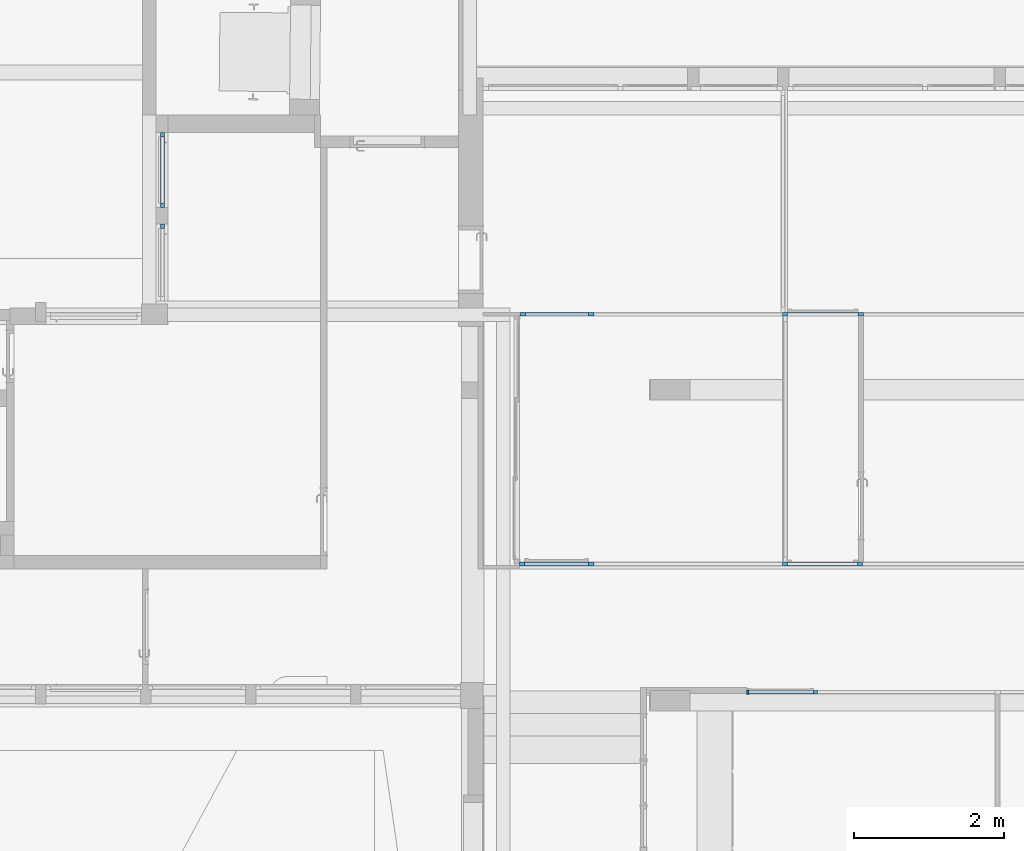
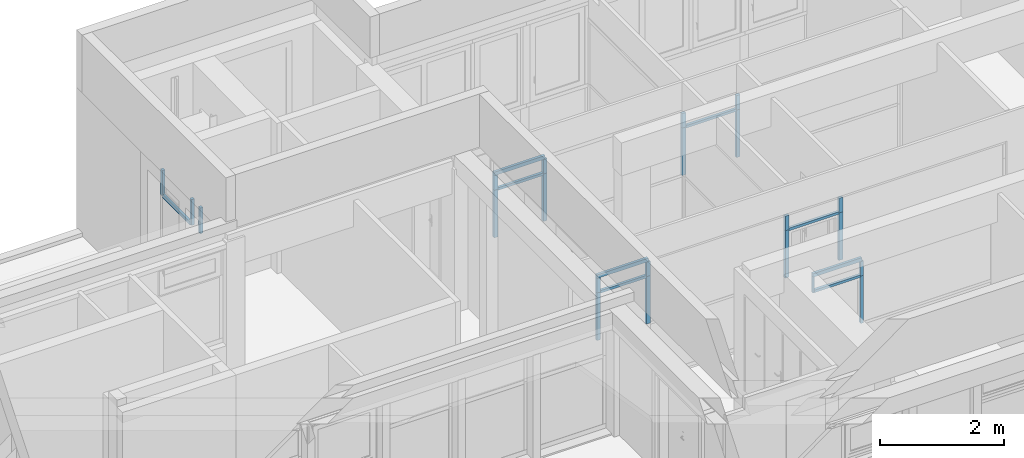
# One storey, part 15 of 49: 31 members, 5 elements without a shape of their own.
"""IFC4 building model written with IfcOpenShell, lengths in metres."""

import ifcopenshell
import ifcopenshell.guid

model = None  # the IFC model being written
_history = None  # IfcOwnerHistory: only IFC2X3 demands one
_inside = {}  # id of a spatial element -> (the spatial element, [elements in it])
_under = {}  # id of a project, library or spatial element -> (it, [spatial elements below it])
_declared = {}  # id of a project -> (the project, [libraries it declares])
_typed = {}  # id of a type object -> (the type object, [elements of that type])
_made_of = {}  # id of a material, layer set ... -> (it, [elements and type objects made of it])


def new_model(schema):
    """Start an empty IFC model of exactly this schema.

    Asked for "IFC4X3", IfcOpenShell would pick the latest addendum, in which some entities
    have other attributes; the version numbers below select the first issue.
    IFC2X3 requires an IfcOwnerHistory on every rooted entity: one is made here for all.
    """
    global model, _history
    if schema == "IFC4X3":
        model = ifcopenshell.file(schema_version=(4, 3, 0, 0))
    else:
        model = ifcopenshell.file(schema=schema)
    _inside.clear()
    _under.clear()
    _declared.clear()
    _typed.clear()
    _made_of.clear()
    _history = None
    if model.schema == "IFC2X3":
        org = make("IfcOrganization", Name="unknown")
        user = make(
            "IfcPersonAndOrganization",
            ThePerson=make("IfcPerson", FamilyName="unknown"),
            TheOrganization=org,
        )
        app = make(
            "IfcApplication",
            ApplicationDeveloper=org,
            Version="unknown",
            ApplicationFullName="unknown",
            ApplicationIdentifier="unknown",
        )
        _history = make(
            "IfcOwnerHistory",
            OwningUser=user,
            OwningApplication=app,
            ChangeAction="ADDED",
            CreationDate=0,
        )
    return model


def make(cls, **values):
    """One entity of the class cls with the attributes given. An attribute that is None is left unset."""
    return model.create_entity(
        cls, **{name: value for name, value in values.items() if value is not None}
    )


def entity(cls, *values):
    """Any entity or typed value of the class cls, its attributes in the order of the schema. None: left unset."""
    e = model.create_entity(cls)
    for i, value in enumerate(values):
        if value is not None:
            e[i] = value
    return e


def rooted(cls, **values):
    """An entity with a GlobalId (a new one), such as an element, a storey or a relation."""
    return make(cls, GlobalId=ifcopenshell.guid.new(), OwnerHistory=_history, **values)


def si_unit(unit_type, name, prefix=None):
    """IfcSIUnit, for example si_unit("LENGTHUNIT", "METRE", prefix="MILLI")."""
    return make("IfcSIUnit", UnitType=unit_type, Prefix=prefix, Name=name)


def converted_unit(unit_type, name, factor, base, dimensions=None, offset=None):
    """IfcConversionBasedUnit, such as the inch: factor (a typed value) times the base unit."""
    return make(
        "IfcConversionBasedUnit"
        if offset is None
        else "IfcConversionBasedUnitWithOffset",
        ConversionOffset=offset,
        Dimensions=None
        if dimensions is None
        else entity("IfcDimensionalExponents", *dimensions),
        UnitType=unit_type,
        Name=name,
        ConversionFactor=make(
            "IfcMeasureWithUnit", ValueComponent=factor, UnitComponent=base
        ),
    )


def derived_unit(unit_type, elements):
    """IfcDerivedUnit: a product of units, each with its exponent."""
    return make(
        "IfcDerivedUnit",
        Elements=[
            make("IfcDerivedUnitElement", Unit=unit, Exponent=power)
            for unit, power in elements
        ],
        UnitType=unit_type,
    )


def assignment(units):
    """IfcUnitAssignment: the units of a project."""
    return None if units is None else make("IfcUnitAssignment", Units=units)


def point(xyz):
    """IfcCartesianPoint."""
    return None if xyz is None else make("IfcCartesianPoint", Coordinates=xyz)


def direction(xyz):
    """IfcDirection."""
    return None if xyz is None else make("IfcDirection", DirectionRatios=xyz)


def frame(location, z_axis=None, x_axis=None):
    """IfcAxis2Placement3D, a coordinate frame: its origin and axes. An axis left out is left unset."""
    return make(
        "IfcAxis2Placement3D",
        Location=point(location),
        Axis=direction(z_axis),
        RefDirection=direction(x_axis),
    )


def origin():
    """The frame at (0, 0, 0) with its axes left unset."""
    return frame((0.0, 0.0, 0.0))


def place(relative_to, where):
    """IfcLocalPlacement: puts the frame where relative to a parent placement (None: the world)."""
    return make(
        "IfcLocalPlacement", PlacementRelTo=relative_to, RelativePlacement=where
    )


def context(
    kind, dimensions, precision=None, world=None, true_north=None, identifier=None
):
    """IfcGeometricRepresentationContext, for example the 3D "Model" context."""
    return make(
        "IfcGeometricRepresentationContext",
        ContextIdentifier=identifier,
        ContextType=kind,
        CoordinateSpaceDimension=dimensions,
        Precision=precision,
        WorldCoordinateSystem=world,
        TrueNorth=true_north,
    )


def subcontext(parent, identifier, kind, view, scale=None):
    """IfcGeometricRepresentationSubContext, for example "Body" below "Model"."""
    return make(
        "IfcGeometricRepresentationSubContext",
        ContextIdentifier=identifier,
        ContextType=kind,
        ParentContext=parent,
        TargetScale=scale,
        TargetView=view,
    )


def project(units=None, contexts=None):
    """IfcProject with its units and contexts."""
    return rooted(
        "IfcProject",
        Name="project",
        RepresentationContexts=contexts,
        UnitsInContext=assignment(units),
    )


def spatial(cls, under=None, at=None, **own):
    """A site, building, storey or space (cls), placed at a placement, below another one or the project."""
    s = rooted(cls, ObjectPlacement=at, **own)
    if under is not None:
        _under.setdefault(under.id(), (under, []))[1].append(s)
    return s


def point_list(points):
    """IfcCartesianPointList2D or 3D."""
    cls = (
        "IfcCartesianPointList2D" if len(points[0]) == 2 else "IfcCartesianPointList3D"
    )
    return make(cls, CoordList=points)


def indexed_curve(points, segments=None, self_intersect=None):
    """IfcIndexedPolyCurve: lines and arcs through numbered points (the first is 1)."""
    return make(
        "IfcIndexedPolyCurve",
        Points=point_list(points),
        Segments=segments,
        SelfIntersect=self_intersect,
    )


def outline(outer, holes=None, kind="AREA"):
    """IfcArbitraryClosedProfileDef: a profile drawn as a closed curve; with holes, ...WithVoids."""
    if holes is None:
        return make("IfcArbitraryClosedProfileDef", ProfileType=kind, OuterCurve=outer)
    return make(
        "IfcArbitraryProfileDefWithVoids",
        ProfileType=kind,
        OuterCurve=outer,
        InnerCurves=holes,
    )


def extrude(swept, where, along, depth):
    """IfcExtrudedAreaSolid: the profile swept, set in the frame where, extruded along a direction by depth."""
    return make(
        "IfcExtrudedAreaSolid",
        SweptArea=swept,
        Position=where,
        ExtrudedDirection=direction(along),
        Depth=depth,
    )


def shape(context_of_items, identifier, shape_type, items):
    """IfcShapeRepresentation: the items that make up one representation, for example the "Body"."""
    return make(
        "IfcShapeRepresentation",
        ContextOfItems=context_of_items,
        RepresentationIdentifier=identifier,
        RepresentationType=shape_type,
        Items=items,
    )


def source(mapping_origin, context_of_items, identifier, shape_type, items):
    """IfcRepresentationMap: a shape defined once, which mapped items show again and again."""
    return make(
        "IfcRepresentationMap",
        MappingOrigin=mapping_origin,
        MappedRepresentation=shape(context_of_items, identifier, shape_type, items),
    )


def transform(
    local_origin,
    x_axis=None,
    y_axis=None,
    z_axis=None,
    scale=None,
    scale2=None,
    scale3=None,
    uniform=True,
):
    """IfcCartesianTransformationOperator3D, or its non-uniform kind. x_axis, y_axis, z_axis: its Axis1, 2, 3."""
    if uniform:
        return make(
            "IfcCartesianTransformationOperator3D",
            Axis1=direction(x_axis),
            Axis2=direction(y_axis),
            LocalOrigin=point(local_origin),
            Scale=scale,
            Axis3=direction(z_axis),
        )
    return make(
        "IfcCartesianTransformationOperator3DnonUniform",
        Axis1=direction(x_axis),
        Axis2=direction(y_axis),
        LocalOrigin=point(local_origin),
        Scale=scale,
        Axis3=direction(z_axis),
        Scale2=scale2,
        Scale3=scale3,
    )


def mapped(mapping_source, mapping_target):
    """IfcMappedItem: shows the shape of a source again, moved by a transform."""
    return make(
        "IfcMappedItem", MappingSource=mapping_source, MappingTarget=mapping_target
    )


def material(Name=None, Category=None):
    """IfcMaterial."""
    return make("IfcMaterial", Name=Name, Category=Category)


def made_of(thing, what):
    """Note that an element or type object is made of a material, layer set ...; save() writes the relation."""
    if what is not None:
        _made_of.setdefault(what.id(), (what, []))[1].append(thing)
    return thing


def type_object(cls, material=None, **own):
    """A type object (cls), such as IfcWallType, which elements share."""
    return made_of(rooted(cls, **own), material)


def type_shapes(of_type, sources):
    """Give a type object the sources (RepresentationMaps) that its elements show as mapped items."""
    of_type.RepresentationMaps = sources


def element(
    cls,
    number,
    at=None,
    inside=None,
    cuts=None,
    type_object=None,
    material=None,
    context=None,
    identifier="Body",
    shape_type=None,
    held_by="IfcProductDefinitionShape",
    body=None,
    shapes=None,
    **own,
):
    """One element of the class cls, such as IfcWall. Its Tag is "e" and its number.

    at: its placement. inside: the storey or other place that contains it. cuts: it is an
    opening in that element (IfcRelVoidsElement). A single representation is given by context,
    identifier, shape_type and body (its items); several are given by shapes. held_by: the class
    of the entity that holds the representations. save() writes the other relations.
    """
    e = rooted(cls, Tag="e%d" % number, ObjectPlacement=at, **own)
    if body is not None:
        shapes = [shape(context, identifier, shape_type, body)]
    if shapes is not None:
        e.Representation = make(held_by, Representations=shapes)
    if inside is not None:
        _inside.setdefault(inside.id(), (inside, []))[1].append(e)
    if cuts is not None:
        rooted(
            "IfcRelVoidsElement", RelatingBuildingElement=cuts, RelatedOpeningElement=e
        )
    if type_object is not None:
        _typed.setdefault(type_object.id(), (type_object, []))[1].append(e)
    return made_of(e, material)


def aggregate(whole, parts):
    """IfcRelAggregates: a whole, such as a stair, and the parts it consists of."""
    return rooted("IfcRelAggregates", RelatingObject=whole, RelatedObjects=parts)


def save(model, path):
    """Write the relations noted so far, then the file.

    IfcRelAggregates (storeys below a building ...), IfcRelContainedInSpatialStructure (elements
    in a storey), IfcRelDefinesByType, IfcRelAssociatesMaterial and IfcRelDeclares: one each for
    every whole, place, type object, material and project.
    """
    for whole, parts in _under.values():
        aggregate(whole, parts)
    for where, things in _inside.values():
        rooted(
            "IfcRelContainedInSpatialStructure",
            RelatedElements=things,
            RelatingStructure=where,
        )
    for kind, things in _typed.values():
        rooted("IfcRelDefinesByType", RelatedObjects=things, RelatingType=kind)
    for what, things in _made_of.values():
        rooted("IfcRelAssociatesMaterial", RelatedObjects=things, RelatingMaterial=what)
    for by, libraries in _declared.values():
        rooted("IfcRelDeclares", RelatingContext=by, RelatedDefinitions=libraries)
    model.write(path)


model = new_model("IFC4")

# Units and contexts
model_context = context("Model", 3, precision=1e-05, world=origin(), true_north=direction((6.12303176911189e-17, 1.0)))
body_context = subcontext(model_context, "Body", "Model", "MODEL_VIEW")
ifc_project = project(units=[si_unit("LENGTHUNIT", "METRE"), si_unit("AREAUNIT", "SQUARE_METRE"), si_unit("VOLUMEUNIT", "CUBIC_METRE"), converted_unit("PLANEANGLEUNIT", "DEGREE", entity("IfcRatioMeasure", 0.0174532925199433), si_unit("PLANEANGLEUNIT", "RADIAN"), dimensions=[0, 0, 0, 0, 0, 0, 0]), si_unit("MASSUNIT", "GRAM", prefix="KILO"), derived_unit("MASSDENSITYUNIT", [(si_unit("MASSUNIT", "GRAM", prefix="KILO"), 1), (si_unit("LENGTHUNIT", "METRE"), -3)]), derived_unit("MOMENTOFINERTIAUNIT", [(si_unit("LENGTHUNIT", "METRE"), 4)]), si_unit("TIMEUNIT", "SECOND"), si_unit("FREQUENCYUNIT", "HERTZ"), si_unit("THERMODYNAMICTEMPERATUREUNIT", "DEGREE_CELSIUS"), derived_unit("THERMALTRANSMITTANCEUNIT", [(si_unit("MASSUNIT", "GRAM", prefix="KILO"), 1), (si_unit("THERMODYNAMICTEMPERATUREUNIT", "KELVIN"), -1), (si_unit("TIMEUNIT", "SECOND"), -3)]), derived_unit("VOLUMETRICFLOWRATEUNIT", [(si_unit("LENGTHUNIT", "METRE"), 3), (si_unit("TIMEUNIT", "SECOND"), -1)]), si_unit("ELECTRICCURRENTUNIT", "AMPERE"), si_unit("ELECTRICVOLTAGEUNIT", "VOLT"), si_unit("POWERUNIT", "WATT"), si_unit("FORCEUNIT", "NEWTON", prefix="KILO"), si_unit("ILLUMINANCEUNIT", "LUX"), si_unit("LUMINOUSFLUXUNIT", "LUMEN"), si_unit("LUMINOUSINTENSITYUNIT", "CANDELA"), derived_unit("USERDEFINED", [(si_unit("MASSUNIT", "GRAM", prefix="KILO"), -1), (si_unit("LENGTHUNIT", "METRE"), -2), (si_unit("TIMEUNIT", "SECOND"), 3), (si_unit("LUMINOUSFLUXUNIT", "LUMEN"), 1)]), derived_unit("LINEARVELOCITYUNIT", [(si_unit("LENGTHUNIT", "METRE"), 1), (si_unit("TIMEUNIT", "SECOND"), -1)]), si_unit("PRESSUREUNIT", "PASCAL"), derived_unit("USERDEFINED", [(si_unit("LENGTHUNIT", "METRE"), -2), (si_unit("MASSUNIT", "GRAM", prefix="KILO"), 1), (si_unit("TIMEUNIT", "SECOND"), -2)]), derived_unit("LINEARFORCEUNIT", [(si_unit("MASSUNIT", "GRAM", prefix="KILO"), 1), (si_unit("LENGTHUNIT", "METRE"), 1), (si_unit("TIMEUNIT", "SECOND"), -2), (si_unit("LENGTHUNIT", "METRE"), -1)]), derived_unit("PLANARFORCEUNIT", [(si_unit("MASSUNIT", "GRAM", prefix="KILO"), 1), (si_unit("LENGTHUNIT", "METRE"), 1), (si_unit("TIMEUNIT", "SECOND"), -2), (si_unit("LENGTHUNIT", "METRE"), -2)])], contexts=[model_context])

# Site, building, storey
site_placement = place(None, origin())
site = spatial("IfcSite", under=ifc_project, at=site_placement, Name="Default", CompositionType="ELEMENT")
building_placement = place(site_placement, origin())
building = spatial("IfcBuilding", under=site, at=building_placement, Name="HOTEL CONSULAIRE BOULOGNE SUR MER", CompositionType="ELEMENT")
storey_placement = place(building_placement, frame((0.0, 0.0, 6.81974152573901)))
storey = spatial("IfcBuildingStorey", under=building, at=storey_placement, Name="Niveau 2", CompositionType="ELEMENT", Elevation=6.81974152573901)

# Curtain wall, member
curtain_wall_type = type_object("IfcCurtainWallType", Name="Mur-rideau:Simple panneau", PredefinedType="NOTDEFINED")
curtain_wall_1_placement = place(storey_placement, frame((0.0, 0.0, -6.81974152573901)))
curtain_wall_1 = element("IfcCurtainWall", 1, at=curtain_wall_1_placement, inside=storey, type_object=curtain_wall_type, Name="Mur-rideau:Simple panneau", ObjectType="Mur-rideau:Simple panneau", PredefinedType="NOTDEFINED")
ifc_material = material(Name="PVC - Blanc", Category="Plastique")
member_type_1 = type_object("IfcMemberType", Name="Meneau rectangulaire:50 x 25mm", PredefinedType="MULLION", material=ifc_material)
shared_shape_1 = source(origin(), body_context, "Body", "SweptSolid", [
    extrude(outline(indexed_curve([(-0.025, -0.025), (0.025, -0.025), (0.025, 0.025), (-0.025, 0.025), (-0.025, -0.025)], self_intersect=False)), frame((0.0, -0.025, -0.86254976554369), z_axis=(0.0, 0.0, 1.0), x_axis=(0.0, -1.0, 0.0)), (0.0, 0.0, 1.0), 0.862549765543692),
])
type_shapes(member_type_1, [shared_shape_1])
member_1_placement = place(storey_placement, frame((15.2148070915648, -19.643155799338, 2.046), z_axis=(-1.0, 0.0, 0.0), x_axis=(0.0, 0.0, 1.0)))
member_1 = element("IfcMember", 2, at=member_1_placement, type_object=member_type_1, material=ifc_material, Name="Meneau rectangulaire:50 x 25mm", ObjectType="Meneau rectangulaire:50 x 25mm", PredefinedType="MULLION", context=body_context, shape_type="MappedRepresentation", body=[
    mapped(shared_shape_1, transform((0.0, 0.0, 0.0), scale=1.0)),
])

# Curtain wall, members
curtain_wall_2_placement = place(storey_placement, frame((0.0, 0.0, -6.81974152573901)))
curtain_wall_2 = element("IfcCurtainWall", 3, at=curtain_wall_2_placement, inside=storey, type_object=curtain_wall_type, Name="Mur-rideau:Simple panneau", ObjectType="Mur-rideau:Simple panneau", PredefinedType="NOTDEFINED")
member_type_2 = type_object("IfcMemberType", Name="Meneau rectangulaire:50 x 35", PredefinedType="MULLION", material=ifc_material)
shared_shape_2 = source(origin(), body_context, "Body", "SweptSolid", [
    extrude(outline(indexed_curve([(-0.025, -0.035), (0.025, -0.035), (0.025, 0.035), (-0.025, 0.035), (-0.025, -0.035)], self_intersect=False)), frame((0.0, -0.025, -0.935), z_axis=(0.0, 0.0, 1.0), x_axis=(0.0, -1.0, 0.0)), (0.0, 0.0, 1.0), 0.935),
])
type_shapes(member_type_2, [shared_shape_2])
member_2_placement = place(storey_placement, frame((13.113075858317, -14.6024237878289, 1.111), z_axis=(0.0, 0.0, -1.0), x_axis=(-1.0, 0.0, 0.0)))
member_2 = element("IfcMember", 4, at=member_2_placement, type_object=member_type_2, material=ifc_material, Name="Meneau rectangulaire:50 x 35", ObjectType="Meneau rectangulaire:50 x 35", PredefinedType="MULLION", context=body_context, shape_type="MappedRepresentation", body=[
    mapped(shared_shape_2, transform((0.0, 0.0, 0.0), scale=1.0)),
])
member_3_placement = place(storey_placement, frame((15.696075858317, -14.6024237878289, 1.111), z_axis=(0.0, 0.0, -1.0), x_axis=(-1.0, 0.0, 0.0)))
member_3 = element("IfcMember", 5, at=member_3_placement, type_object=member_type_2, material=ifc_material, Name="Meneau rectangulaire:50 x 35", ObjectType="Meneau rectangulaire:50 x 35", PredefinedType="MULLION", context=body_context, shape_type="MappedRepresentation", body=[
    mapped(shared_shape_2, transform((0.0, 0.0, 0.0), scale=1.0)),
])
member_4_placement = place(storey_placement, frame((16.708075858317, -14.6024237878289, 1.111), z_axis=(0.0, 0.0, -1.0), x_axis=(-1.0, 0.0, 0.0)))
member_4 = element("IfcMember", 6, at=member_4_placement, type_object=member_type_2, material=ifc_material, Name="Meneau rectangulaire:50 x 35", ObjectType="Meneau rectangulaire:50 x 35", PredefinedType="MULLION", context=body_context, shape_type="MappedRepresentation", body=[
    mapped(shared_shape_2, transform((0.0, 0.0, 0.0), scale=1.0)),
])

curtain_wall_3_placement = place(storey_placement, frame((0.0, 0.0, -6.81974152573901)))
curtain_wall_3 = element("IfcCurtainWall", 7, at=curtain_wall_3_placement, inside=storey, type_object=curtain_wall_type, Name="Mur-rideau:Simple panneau", ObjectType="Mur-rideau:Simple panneau", PredefinedType="NOTDEFINED")
member_5_placement = place(storey_placement, frame((13.113075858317, -17.9313078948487, 1.111), z_axis=(0.0, 0.0, -1.0), x_axis=(-1.0, 0.0, 0.0)))
member_5 = element("IfcMember", 8, at=member_5_placement, type_object=member_type_2, material=ifc_material, Name="Meneau rectangulaire:50 x 35", ObjectType="Meneau rectangulaire:50 x 35", PredefinedType="MULLION", context=body_context, shape_type="MappedRepresentation", body=[
    mapped(shared_shape_2, transform((0.0, 0.0, 0.0), scale=1.0)),
])
member_6_placement = place(storey_placement, frame((15.696075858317, -17.9313078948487, 1.111), z_axis=(0.0, 0.0, -1.0), x_axis=(-1.0, 0.0, 0.0)))
member_6 = element("IfcMember", 9, at=member_6_placement, type_object=member_type_2, material=ifc_material, Name="Meneau rectangulaire:50 x 35", ObjectType="Meneau rectangulaire:50 x 35", PredefinedType="MULLION", context=body_context, shape_type="MappedRepresentation", body=[
    mapped(shared_shape_2, transform((0.0, 0.0, 0.0), scale=1.0)),
])
member_7_placement = place(storey_placement, frame((16.696075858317, -17.9313078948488, 1.111), z_axis=(0.0, 0.0, -1.0), x_axis=(-1.0, 0.0, 0.0)))
member_7 = element("IfcMember", 10, at=member_7_placement, type_object=member_type_2, material=ifc_material, Name="Meneau rectangulaire:50 x 35", ObjectType="Meneau rectangulaire:50 x 35", PredefinedType="MULLION", context=body_context, shape_type="MappedRepresentation", body=[
    mapped(shared_shape_2, transform((0.0, 0.0, 0.0), scale=1.0)),
])

# Member
member_type_3 = type_object("IfcMemberType", Name="Meneau rectangulaire:50 x 35", PredefinedType="MULLION", material=ifc_material)
shared_shape_3 = source(origin(), body_context, "Body", "SweptSolid", [
    extrude(outline(indexed_curve([(-0.025, -0.035), (0.025, -0.035), (0.025, 0.035), (-0.025, 0.035), (-0.025, -0.035)], self_intersect=False)), frame((0.0, -0.025, -0.286), z_axis=(0.0, 0.0, 1.0), x_axis=(0.0, -1.0, 0.0)), (0.0, 0.0, 1.0), 0.286),
])
type_shapes(member_type_3, [shared_shape_3])
member_8_placement = place(storey_placement, frame((13.113075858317, -14.6024237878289, 2.046), z_axis=(0.0, 0.0, -1.0), x_axis=(-1.0, 0.0, 0.0)))
member_8 = element("IfcMember", 11, at=member_8_placement, type_object=member_type_3, material=ifc_material, Name="Meneau rectangulaire:50 x 35", ObjectType="Meneau rectangulaire:50 x 35", PredefinedType="MULLION", context=body_context, shape_type="MappedRepresentation", body=[
    mapped(shared_shape_3, transform((0.0, 0.0, 0.0), scale=1.0)),
])

member_9_placement = place(storey_placement, frame((15.696075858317, -14.6024237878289, 2.046), z_axis=(0.0, 0.0, -1.0), x_axis=(-1.0, 0.0, 0.0)))
member_9 = element("IfcMember", 12, at=member_9_placement, type_object=member_type_3, material=ifc_material, Name="Meneau rectangulaire:50 x 35", ObjectType="Meneau rectangulaire:50 x 35", PredefinedType="MULLION", context=body_context, shape_type="MappedRepresentation", body=[
    mapped(shared_shape_3, transform((0.0, 0.0, 0.0), scale=1.0)),
])

member_10_placement = place(storey_placement, frame((16.708075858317, -14.6024237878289, 2.046), z_axis=(0.0, 0.0, -1.0), x_axis=(-1.0, 0.0, 0.0)))
member_10 = element("IfcMember", 13, at=member_10_placement, type_object=member_type_3, material=ifc_material, Name="Meneau rectangulaire:50 x 35", ObjectType="Meneau rectangulaire:50 x 35", PredefinedType="MULLION", context=body_context, shape_type="MappedRepresentation", body=[
    mapped(shared_shape_3, transform((0.0, 0.0, 0.0), scale=1.0)),
])

member_11_placement = place(storey_placement, frame((13.113075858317, -17.9313078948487, 2.046), z_axis=(0.0, 0.0, -1.0), x_axis=(-1.0, 0.0, 0.0)))
member_11 = element("IfcMember", 14, at=member_11_placement, type_object=member_type_3, material=ifc_material, Name="Meneau rectangulaire:50 x 35", ObjectType="Meneau rectangulaire:50 x 35", PredefinedType="MULLION", context=body_context, shape_type="MappedRepresentation", body=[
    mapped(shared_shape_3, transform((0.0, 0.0, 0.0), scale=1.0)),
])

member_12_placement = place(storey_placement, frame((15.696075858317, -17.9313078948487, 2.046), z_axis=(0.0, 0.0, -1.0), x_axis=(-1.0, 0.0, 0.0)))
member_12 = element("IfcMember", 15, at=member_12_placement, type_object=member_type_3, material=ifc_material, Name="Meneau rectangulaire:50 x 35", ObjectType="Meneau rectangulaire:50 x 35", PredefinedType="MULLION", context=body_context, shape_type="MappedRepresentation", body=[
    mapped(shared_shape_3, transform((0.0, 0.0, 0.0), scale=1.0)),
])

member_13_placement = place(storey_placement, frame((16.696075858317, -17.9313078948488, 2.046), z_axis=(0.0, 0.0, -1.0), x_axis=(-1.0, 0.0, 0.0)))
member_13 = element("IfcMember", 16, at=member_13_placement, type_object=member_type_3, material=ifc_material, Name="Meneau rectangulaire:50 x 35", ObjectType="Meneau rectangulaire:50 x 35", PredefinedType="MULLION", context=body_context, shape_type="MappedRepresentation", body=[
    mapped(shared_shape_3, transform((0.0, 0.0, 0.0), scale=1.0)),
])

member_type_4 = type_object("IfcMemberType", Name="Meneau rectangulaire:50 x 25mm", PredefinedType="MULLION", material=ifc_material)
shared_shape_4 = source(origin(), body_context, "Body", "SweptSolid", [
    extrude(outline(indexed_curve([(-0.025, -0.025), (0.025, -0.025), (0.025, 0.025), (-0.025, 0.025), (-0.025, -0.025)], self_intersect=False)), frame((0.0, -0.025, -0.935), z_axis=(0.0, 0.0, 1.0), x_axis=(0.0, -1.0, 0.0)), (0.0, 0.0, 1.0), 0.935),
])
type_shapes(member_type_4, [shared_shape_4])
member_14_placement = place(storey_placement, frame((16.1023568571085, -19.643155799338, 1.111), z_axis=(0.0, 0.0, -1.0), x_axis=(-1.0, 0.0, 0.0)))
member_14 = element("IfcMember", 17, at=member_14_placement, type_object=member_type_4, material=ifc_material, Name="Meneau rectangulaire:50 x 25mm", ObjectType="Meneau rectangulaire:50 x 25mm", PredefinedType="MULLION", context=body_context, shape_type="MappedRepresentation", body=[
    mapped(shared_shape_4, transform((0.0, 0.0, 0.0), scale=1.0)),
])

member_type_5 = type_object("IfcMemberType", Name="Meneau rectangulaire:50 x 25mm", PredefinedType="MULLION", material=ifc_material)
shared_shape_5 = source(origin(), body_context, "Body", "SweptSolid", [
    extrude(outline(indexed_curve([(-0.025, -0.025), (0.025, -0.025), (0.025, 0.025), (-0.025, 0.025), (-0.025, -0.025)], self_intersect=False)), frame((0.0, -0.025, -0.286), z_axis=(0.0, 0.0, 1.0), x_axis=(0.0, -1.0, 0.0)), (0.0, 0.0, 1.0), 0.286),
])
type_shapes(member_type_5, [shared_shape_5])
member_15_placement = place(storey_placement, frame((16.1023568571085, -19.643155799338, 2.046), z_axis=(0.0, 0.0, -1.0), x_axis=(-1.0, 0.0, 0.0)))
member_15 = element("IfcMember", 18, at=member_15_placement, type_object=member_type_5, material=ifc_material, Name="Meneau rectangulaire:50 x 25mm", ObjectType="Meneau rectangulaire:50 x 25mm", PredefinedType="MULLION", context=body_context, shape_type="MappedRepresentation", body=[
    mapped(shared_shape_5, transform((0.0, 0.0, 0.0), scale=1.0)),
])

member_type_6 = type_object("IfcMemberType", Name="Meneau rectangulaire:50 x 125 mm", PredefinedType="MULLION", material=ifc_material)
shared_shape_6 = source(origin(), body_context, "Body", "SweptSolid", [
    extrude(outline(indexed_curve([(-0.025, -0.0125), (0.025, -0.0125), (0.025, 0.0125), (-0.025, 0.0125), (-0.025, -0.0125)], self_intersect=False)), frame((-0.0125, -0.025, -0.311), z_axis=(0.0, 0.0, 1.0), x_axis=(0.0, -1.0, 0.0)), (0.0, 0.0, 1.0), 0.311),
])
type_shapes(member_type_6, [shared_shape_6])
member_16_placement = place(storey_placement, frame((15.1898070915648, -19.643155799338, 2.021), z_axis=(0.0, 0.0, -1.0), x_axis=(-1.0, 0.0, 0.0)))
member_16 = element("IfcMember", 19, at=member_16_placement, type_object=member_type_6, material=ifc_material, Name="Meneau rectangulaire:50 x 125 mm", ObjectType="Meneau rectangulaire:50 x 125 mm", PredefinedType="MULLION", context=body_context, shape_type="MappedRepresentation", body=[
    mapped(shared_shape_6, transform((0.0, 0.0, 0.0), scale=1.0)),
])

member_type_7 = type_object("IfcMemberType", Name="Meneau rectangulaire:50 x 35", PredefinedType="MULLION", material=ifc_material)
shared_shape_7 = source(origin(), body_context, "Body", "SweptSolid", [
    extrude(outline(indexed_curve([(-0.025, -0.035), (0.025, -0.035), (0.025, 0.035), (-0.025, 0.035), (-0.025, -0.035)], self_intersect=False)), frame((-0.035, -0.025, -0.912549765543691), z_axis=(0.0, 0.0, 1.0), x_axis=(0.0, -1.0, 0.0)), (0.0, 0.0, 1.0), 0.912549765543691),
])
type_shapes(member_type_7, [shared_shape_7])
member_17_placement = place(storey_placement, frame((15.1898070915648, -19.643155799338, 2.402), z_axis=(-1.0, 0.0, 0.0), x_axis=(0.0, 0.0, 1.0)))
member_17 = element("IfcMember", 20, at=member_17_placement, type_object=member_type_7, material=ifc_material, Name="Meneau rectangulaire:50 x 35", ObjectType="Meneau rectangulaire:50 x 35", PredefinedType="MULLION", context=body_context, shape_type="MappedRepresentation", body=[
    mapped(shared_shape_7, transform((0.0, 0.0, 0.0), scale=1.0)),
])

aggregate(curtain_wall_1, [member_1, member_14, member_15, member_16, member_17])

member_type_8 = type_object("IfcMemberType", Name="Meneau rectangulaire:50 x 35", PredefinedType="MULLION", material=ifc_material)
shared_shape_8 = source(origin(), body_context, "Body", "SweptSolid", [
    extrude(outline(indexed_curve([(-0.025, -0.035), (0.025, -0.035), (0.025, 0.035), (-0.025, 0.035), (-0.025, -0.035)], self_intersect=False)), frame((-0.035, -0.025, -0.948000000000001), z_axis=(0.0, 0.0, 1.0), x_axis=(0.0, -1.0, 0.0)), (0.0, 0.0, 1.0), 0.948000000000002),
])
type_shapes(member_type_8, [shared_shape_8])
member_18_placement = place(storey_placement, frame((12.165075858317, -14.6024237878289, 2.402), z_axis=(-1.0, 0.0, 0.0), x_axis=(0.0, 0.0, 1.0)))
member_18 = element("IfcMember", 21, at=member_18_placement, type_object=member_type_8, material=ifc_material, Name="Meneau rectangulaire:50 x 35", ObjectType="Meneau rectangulaire:50 x 35", PredefinedType="MULLION", context=body_context, shape_type="MappedRepresentation", body=[
    mapped(shared_shape_8, transform((0.0, 0.0, 0.0), scale=1.0)),
])

member_type_9 = type_object("IfcMemberType", Name="Meneau rectangulaire:50 x 25mm", PredefinedType="MULLION", material=ifc_material)
shared_shape_9 = source(origin(), body_context, "Body", "SweptSolid", [
    extrude(outline(indexed_curve([(-0.025, -0.025), (0.025, -0.025), (0.025, 0.025), (-0.025, 0.025), (-0.025, -0.025)], self_intersect=False)), frame((0.0, -0.025, -0.941999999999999), z_axis=(0.0, 0.0, 1.0), x_axis=(0.0, -1.0, 0.0)), (0.0, 0.0, 1.0), 0.941999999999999),
])
type_shapes(member_type_9, [shared_shape_9])
member_19_placement = place(storey_placement, frame((15.731075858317, -14.6024237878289, 2.046), z_axis=(-1.0, 0.0, 0.0), x_axis=(0.0, 0.0, 1.0)))
member_19 = element("IfcMember", 22, at=member_19_placement, type_object=member_type_9, material=ifc_material, Name="Meneau rectangulaire:50 x 25mm", ObjectType="Meneau rectangulaire:50 x 25mm", PredefinedType="MULLION", context=body_context, shape_type="MappedRepresentation", body=[
    mapped(shared_shape_9, transform((0.0, 0.0, 0.0), scale=1.0)),
])

member_type_10 = type_object("IfcMemberType", Name="Meneau rectangulaire:50 x 25mm", PredefinedType="MULLION", material=ifc_material)
shared_shape_10 = source(origin(), body_context, "Body", "SweptSolid", [
    extrude(outline(indexed_curve([(-0.025, -0.025), (0.025, -0.025), (0.025, 0.025), (-0.025, 0.025), (-0.025, -0.025)], self_intersect=False)), frame((0.0, -0.025, -0.843000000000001), z_axis=(0.0, 0.0, 1.0), x_axis=(0.0, -1.0, 0.0)), (0.0, 0.0, 1.0), 0.843000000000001),
])
type_shapes(member_type_10, [shared_shape_10])
member_20_placement = place(storey_placement, frame((12.235075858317, -14.6024237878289, 2.046), z_axis=(-1.0, 0.0, 0.0), x_axis=(0.0, 0.0, 1.0)))
member_20 = element("IfcMember", 23, at=member_20_placement, type_object=member_type_10, material=ifc_material, Name="Meneau rectangulaire:50 x 25mm", ObjectType="Meneau rectangulaire:50 x 25mm", PredefinedType="MULLION", context=body_context, shape_type="MappedRepresentation", body=[
    mapped(shared_shape_10, transform((0.0, 0.0, 0.0), scale=1.0)),
])

member_type_11 = type_object("IfcMemberType", Name="Meneau rectangulaire:50 x 35", PredefinedType="MULLION", material=ifc_material)
shared_shape_11 = source(origin(), body_context, "Body", "SweptSolid", [
    extrude(outline(indexed_curve([(-0.025, -0.035), (0.025, -0.035), (0.025, 0.035), (-0.025, 0.035), (-0.025, -0.035)], self_intersect=False)), frame((-0.035, -0.025, -0.934999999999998), z_axis=(0.0, 0.0, 1.0), x_axis=(0.0, -1.0, 0.0)), (0.0, 0.0, 1.0), 0.934999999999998),
])
type_shapes(member_type_11, [shared_shape_11])
member_21_placement = place(storey_placement, frame((12.165075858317, -14.6024237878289, 1.111), z_axis=(0.0, 0.0, -1.0), x_axis=(-1.0, 0.0, 0.0)))
member_21 = element("IfcMember", 24, at=member_21_placement, type_object=member_type_11, material=ifc_material, Name="Meneau rectangulaire:50 x 35", ObjectType="Meneau rectangulaire:50 x 35", PredefinedType="MULLION", context=body_context, shape_type="MappedRepresentation", body=[
    mapped(shared_shape_11, transform((0.0, 0.0, 0.0), scale=1.0)),
])

member_22_placement = place(storey_placement, frame((12.1554672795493, -17.9313078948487, 1.111), z_axis=(0.0, 0.0, -1.0), x_axis=(-1.0, 0.0, 0.0)))
member_22 = element("IfcMember", 25, at=member_22_placement, type_object=member_type_11, material=ifc_material, Name="Meneau rectangulaire:50 x 35", ObjectType="Meneau rectangulaire:50 x 35", PredefinedType="MULLION", context=body_context, shape_type="MappedRepresentation", body=[
    mapped(shared_shape_11, transform((0.0, 0.0, 0.0), scale=1.0)),
])

member_type_12 = type_object("IfcMemberType", Name="Meneau rectangulaire:50 x 35", PredefinedType="MULLION", material=ifc_material)
shared_shape_12 = source(origin(), body_context, "Body", "SweptSolid", [
    extrude(outline(indexed_curve([(-0.025, -0.035), (0.025, -0.035), (0.025, 0.035), (-0.025, 0.035), (-0.025, -0.035)], self_intersect=False)), frame((-0.035, -0.025, -0.286), z_axis=(0.0, 0.0, 1.0), x_axis=(0.0, -1.0, 0.0)), (0.0, 0.0, 1.0), 0.286),
])
type_shapes(member_type_12, [shared_shape_12])
member_23_placement = place(storey_placement, frame((12.165075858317, -14.6024237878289, 2.046), z_axis=(0.0, 0.0, -1.0), x_axis=(-1.0, 0.0, 0.0)))
member_23 = element("IfcMember", 26, at=member_23_placement, type_object=member_type_12, material=ifc_material, Name="Meneau rectangulaire:50 x 35", ObjectType="Meneau rectangulaire:50 x 35", PredefinedType="MULLION", context=body_context, shape_type="MappedRepresentation", body=[
    mapped(shared_shape_12, transform((0.0, 0.0, 0.0), scale=1.0)),
])

aggregate(curtain_wall_2, [member_18, member_2, member_8, member_3, member_9, member_4, member_10, member_19, member_20, member_21, member_23])

member_24_placement = place(storey_placement, frame((12.1554672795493, -17.9313078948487, 2.046), z_axis=(0.0, 0.0, -1.0), x_axis=(-1.0, 0.0, 0.0)))
member_24 = element("IfcMember", 27, at=member_24_placement, type_object=member_type_12, material=ifc_material, Name="Meneau rectangulaire:50 x 35", ObjectType="Meneau rectangulaire:50 x 35", PredefinedType="MULLION", context=body_context, shape_type="MappedRepresentation", body=[
    mapped(shared_shape_12, transform((0.0, 0.0, 0.0), scale=1.0)),
])

member_type_13 = type_object("IfcMemberType", Name="Meneau rectangulaire:50 x 35", PredefinedType="MULLION", material=ifc_material)
shared_shape_13 = source(origin(), body_context, "Body", "SweptSolid", [
    extrude(outline(indexed_curve([(-0.025, -0.035), (0.025, -0.035), (0.025, 0.035), (-0.025, 0.035), (-0.025, -0.035)], self_intersect=False)), frame((-0.035, -0.025, -0.957608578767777), z_axis=(0.0, 0.0, 1.0), x_axis=(0.0, -1.0, 0.0)), (0.0, 0.0, 1.0), 0.957608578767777),
])
type_shapes(member_type_13, [shared_shape_13])
member_25_placement = place(storey_placement, frame((12.1554672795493, -17.9313078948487, 2.402), z_axis=(-1.0, 0.0, 0.0), x_axis=(0.0, 0.0, 1.0)))
member_25 = element("IfcMember", 28, at=member_25_placement, type_object=member_type_13, material=ifc_material, Name="Meneau rectangulaire:50 x 35", ObjectType="Meneau rectangulaire:50 x 35", PredefinedType="MULLION", context=body_context, shape_type="MappedRepresentation", body=[
    mapped(shared_shape_13, transform((0.0, 0.0, 0.0), scale=1.0)),
])

member_type_14 = type_object("IfcMemberType", Name="Meneau rectangulaire:50 x 25mm", PredefinedType="MULLION", material=ifc_material)
shared_shape_14 = source(origin(), body_context, "Body", "SweptSolid", [
    extrude(outline(indexed_curve([(-0.025, -0.025), (0.025, -0.025), (0.025, 0.025), (-0.025, 0.025), (-0.025, -0.025)], self_intersect=False)), frame((0.0, -0.025, -0.930000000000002), z_axis=(0.0, 0.0, 1.0), x_axis=(0.0, -1.0, 0.0)), (0.0, 0.0, 1.0), 0.930000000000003),
])
type_shapes(member_type_14, [shared_shape_14])
member_26_placement = place(storey_placement, frame((15.731075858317, -17.9313078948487, 2.046), z_axis=(-1.0, 0.0, 0.0), x_axis=(0.0, 0.0, 1.0)))
member_26 = element("IfcMember", 29, at=member_26_placement, type_object=member_type_14, material=ifc_material, Name="Meneau rectangulaire:50 x 25mm", ObjectType="Meneau rectangulaire:50 x 25mm", PredefinedType="MULLION", context=body_context, shape_type="MappedRepresentation", body=[
    mapped(shared_shape_14, transform((0.0, 0.0, 0.0), scale=1.0)),
])

member_type_15 = type_object("IfcMemberType", Name="Meneau rectangulaire:50 x 25mm", PredefinedType="MULLION", material=ifc_material)
shared_shape_15 = source(origin(), body_context, "Body", "SweptSolid", [
    extrude(outline(indexed_curve([(-0.025, -0.025), (0.025, -0.025), (0.025, 0.025), (-0.025, 0.025), (-0.025, -0.025)], self_intersect=False)), frame((0.0, -0.025, -0.852608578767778), z_axis=(0.0, 0.0, 1.0), x_axis=(0.0, -1.0, 0.0)), (0.0, 0.0, 1.0), 0.852608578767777),
])
type_shapes(member_type_15, [shared_shape_15])
member_27_placement = place(storey_placement, frame((12.2254672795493, -17.9313078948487, 2.046), z_axis=(-1.0, 0.0, 0.0), x_axis=(0.0, 0.0, 1.0)))
member_27 = element("IfcMember", 30, at=member_27_placement, type_object=member_type_15, material=ifc_material, Name="Meneau rectangulaire:50 x 25mm", ObjectType="Meneau rectangulaire:50 x 25mm", PredefinedType="MULLION", context=body_context, shape_type="MappedRepresentation", body=[
    mapped(shared_shape_15, transform((0.0, 0.0, 0.0), scale=1.0)),
])

aggregate(curtain_wall_3, [member_25, member_5, member_11, member_6, member_12, member_7, member_13, member_26, member_27, member_22, member_24])

# Curtain wall, member
curtain_wall_4_placement = place(storey_placement, frame((0.0, 0.0, -6.81974152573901)))
curtain_wall_4 = element("IfcCurtainWall", 31, at=curtain_wall_4_placement, inside=storey, type_object=curtain_wall_type, Name="Mur-rideau:Simple panneau", ObjectType="Mur-rideau:Simple panneau", PredefinedType="NOTDEFINED")
member_type_16 = type_object("IfcMemberType", Name="Meneau rectangulaire:50 x 30", PredefinedType="MULLION", material=ifc_material)
shared_shape_16 = source(origin(), body_context, "Body", "SweptSolid", [
    extrude(outline(indexed_curve([(-0.025, -0.03), (0.025, -0.03), (0.025, 0.03), (-0.025, 0.03), (-0.025, -0.03)], self_intersect=False)), frame((-0.03, -0.025, -0.506), z_axis=(0.0, 0.0, 1.0), x_axis=(0.0, -1.0, 0.0)), (0.0, 0.0, 1.0), 0.506),
])
type_shapes(member_type_16, [shared_shape_16])
member_28_placement = place(storey_placement, frame((7.3689802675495, -13.4199109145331, 2.66473410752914), z_axis=(0.0, 0.0, 1.0), x_axis=(0.0, 1.0, 0.0)))
member_28 = element("IfcMember", 32, at=member_28_placement, type_object=member_type_16, material=ifc_material, Name="Meneau rectangulaire:50 x 30", ObjectType="Meneau rectangulaire:50 x 30", PredefinedType="MULLION", context=body_context, shape_type="MappedRepresentation", body=[
    mapped(shared_shape_16, transform((0.0, 0.0, 0.0), scale=1.0)),
])
aggregate(curtain_wall_4, [member_28])

# Curtain wall, members
curtain_wall_5_placement = place(storey_placement, frame((0.0, 0.0, -6.81974152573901)))
curtain_wall_5 = element("IfcCurtainWall", 33, at=curtain_wall_5_placement, inside=storey, type_object=curtain_wall_type, Name="Mur-rideau:Simple panneau", ObjectType="Mur-rideau:Simple panneau", PredefinedType="NOTDEFINED")
member_29_placement = place(storey_placement, frame((7.3689802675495, -12.2007913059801, 2.66473410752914), z_axis=(0.0, 0.0, 1.0), x_axis=(0.0, 1.0, 0.0)))
member_29 = element("IfcMember", 34, at=member_29_placement, type_object=member_type_16, material=ifc_material, Name="Meneau rectangulaire:50 x 30", ObjectType="Meneau rectangulaire:50 x 30", PredefinedType="MULLION", context=body_context, shape_type="MappedRepresentation", body=[
    mapped(shared_shape_16, transform((0.0, 0.0, 0.0), scale=1.0)),
])
member_type_17 = type_object("IfcMemberType", Name="Meneau rectangulaire:50 x 30", PredefinedType="MULLION", material=ifc_material)
shared_shape_17 = source(origin(), body_context, "Body", "SweptSolid", [
    extrude(outline(indexed_curve([(-0.025, -0.03), (0.025, -0.03), (0.025, 0.03), (-0.025, 0.03), (-0.025, -0.03)], self_intersect=False)), frame((-0.03, -0.025, -0.506), z_axis=(0.0, 0.0, 1.0), x_axis=(0.0, -1.0, 0.0)), (0.0, 0.0, 1.0), 0.506),
])
type_shapes(member_type_17, [shared_shape_17])
member_30_placement = place(storey_placement, frame((7.3689802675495, -13.2055363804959, 2.15873410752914), z_axis=(0.0, 0.0, -1.0), x_axis=(0.0, -1.0, 0.0)))
member_30 = element("IfcMember", 35, at=member_30_placement, type_object=member_type_17, material=ifc_material, Name="Meneau rectangulaire:50 x 30", ObjectType="Meneau rectangulaire:50 x 30", PredefinedType="MULLION", context=body_context, shape_type="MappedRepresentation", body=[
    mapped(shared_shape_17, transform((0.0, 0.0, 0.0), scale=1.0)),
])
member_type_18 = type_object("IfcMemberType", Name="Meneau rectangulaire:50 x 30", PredefinedType="MULLION", material=ifc_material)
shared_shape_18 = source(origin(), body_context, "Body", "SweptSolid", [
    extrude(outline(indexed_curve([(-0.025, -0.03), (0.025, -0.03), (0.025, 0.03), (-0.025, 0.03), (-0.025, -0.03)], self_intersect=False)), frame((0.0, -0.025, -0.884745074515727), z_axis=(0.0, 0.0, 1.0), x_axis=(0.0, -1.0, 0.0)), (0.0, 0.0, 1.0), 0.884745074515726),
])
type_shapes(member_type_18, [shared_shape_18])
member_31_placement = place(storey_placement, frame((7.3689802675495, -13.1455363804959, 2.15873410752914), z_axis=(0.0, -1.0, 0.0), x_axis=(0.0, 0.0, 1.0)))
member_31 = element("IfcMember", 36, at=member_31_placement, type_object=member_type_18, material=ifc_material, Name="Meneau rectangulaire:50 x 30", ObjectType="Meneau rectangulaire:50 x 30", PredefinedType="MULLION", context=body_context, shape_type="MappedRepresentation", body=[
    mapped(shared_shape_18, transform((0.0, 0.0, 0.0), scale=1.0)),
])
aggregate(curtain_wall_5, [member_29, member_30, member_31])

save(model, "model.ifc")
